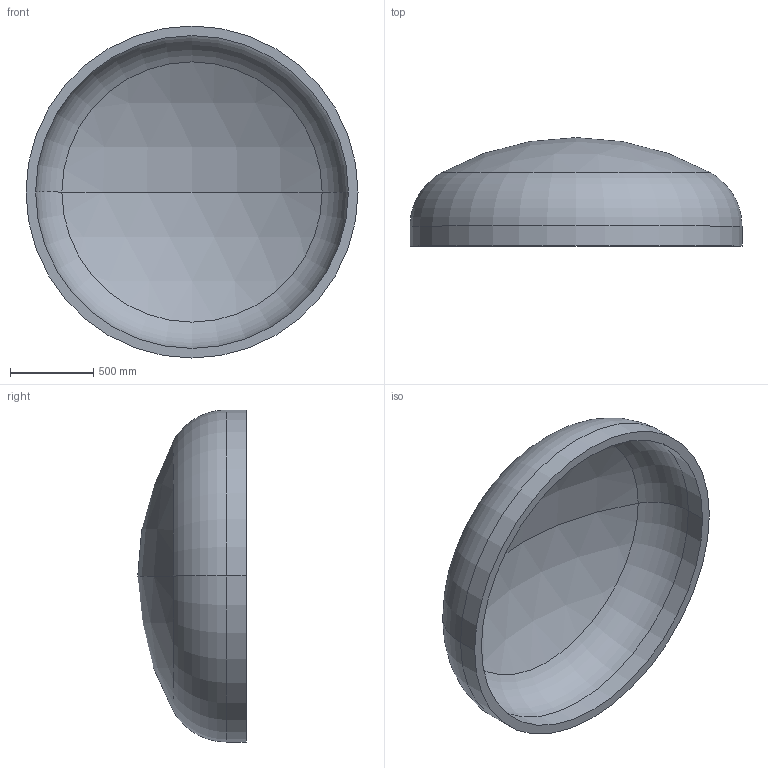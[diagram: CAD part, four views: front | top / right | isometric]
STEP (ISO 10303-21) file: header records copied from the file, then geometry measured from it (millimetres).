
FILE_DESCRIPTION (( 'STEP AP203' ), '1' );
FILE_NAME ('DIN 28013 Korbbogenform_-_Boden DIN 28013 - 2000 x 120 - I - s=58.step', '2016-07-01T13:58:57', ( '' ), ( '' ), 'SwSTEP 2.0', 'SolidWorks 2013', '' );
FILE_SCHEMA (( 'CONFIG_CONTROL_DESIGN' ));
Length unit declared in the file: millimetre
Products named in the file (1): DIN 28013 Korbbogenform_-_Boden DIN 28013 - 2000 x 120 - I - s=58
Bounding box: 2000 x 653.42 x 2000 mm (x, y, z)
Volume: 285751300.4 mm3; surface area: 10214392.1 mm2
Topology: 1 solids, 1 shells, 13 faces, 24 edges, 14 vertices
Faces by surface type: torus 4, cylinder 4, sphere 4, plane 1
Entity records: 407 total; most frequent: DIRECTION 72, CARTESIAN_POINT 52, ORIENTED_EDGE 48, AXIS2_PLACEMENT_3D 34, EDGE_CURVE 24, CIRCLE 20, VERTEX_POINT 14, EDGE_LOOP 14
